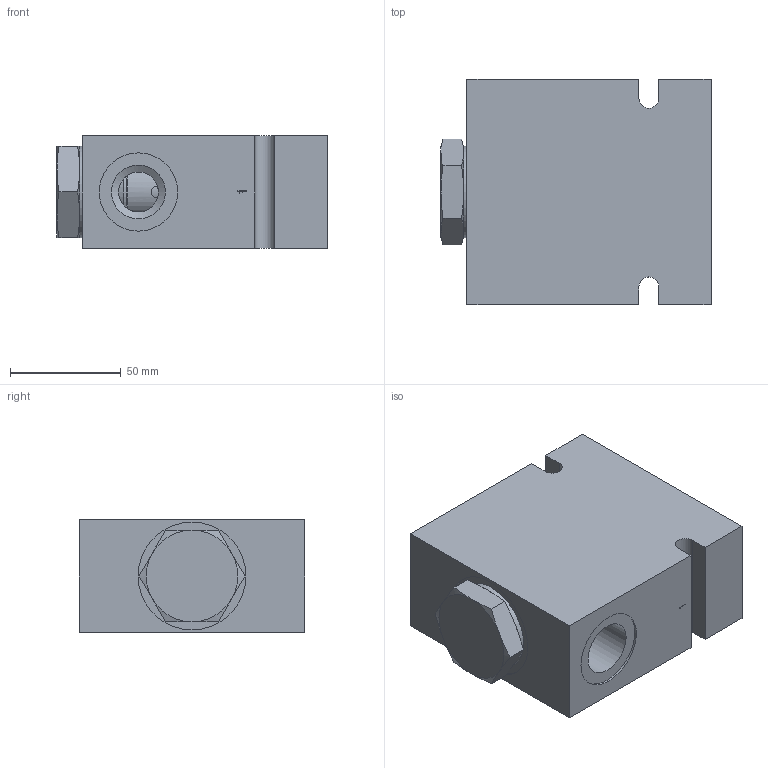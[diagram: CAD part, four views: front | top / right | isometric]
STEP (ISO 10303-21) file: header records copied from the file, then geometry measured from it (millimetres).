
FILE_DESCRIPTION(/* description */ ('Unknown'),/* implementation_level */ '2;1');
FILE_NAME(/* name */ 'D-SKFCP00-D3',/* time_stamp */ '2019-05-01T14:23:24+01:00',/* author */ ('Unknown'),/* organization */ ('Unknown'),/* preprocessor_version */ 'ST-DEVELOPER v16.7',/* originating_system */ 'DEX',/* authorisation */ $);
FILE_SCHEMA (('AUTOMOTIVE_DESIGN {1 0 10303 214 3 1 1}'));
Length unit declared in the file: millimetre
Products named in the file (3): SKFCP00; B-DSKD3
Assembly tree (2 placements, depth 2):
  SKFCP00
    SKFCP00
    B-DSKD3
Bounding box: 121.7 x 101.6 x 50.8 mm (x, y, z)
Volume: 517491.3 mm3; surface area: 76028.7 mm2
Topology: 8 solids, 8 shells, 220 faces, 504 edges, 323 vertices
Faces by surface type: plane 117, cylinder 60, cone 38, torus 5
Full cylindrical faces by diameter (mm): 0.2 x3, 5.156 x8, 8.636 x1, 15 x1, 17.479 x2, 18 x1, 18.669 x1, 22.581 x1, 22.631 x1, 24.13 x1, 24.181 x1, 24.232 x2, 24.3 x6, 25.4 x2, 26.924 x2, 27 x1, 27.051 x1, 27.102 x1, 28.524 x2, 28.6 x3, 28.651 x1, 30.328 x1, 31.806 x2, 35.33 x3, 41.275 x1, 48.514 x1
Entity records: 6509 total; most frequent: CARTESIAN_POINT 1303, ORIENTED_EDGE 792, DIRECTION 779, EDGE_CURVE 396, FACE_BOUND 341, EDGE_LOOP 338, AXIS2_PLACEMENT_3D 337, VERTEX_POINT 301
